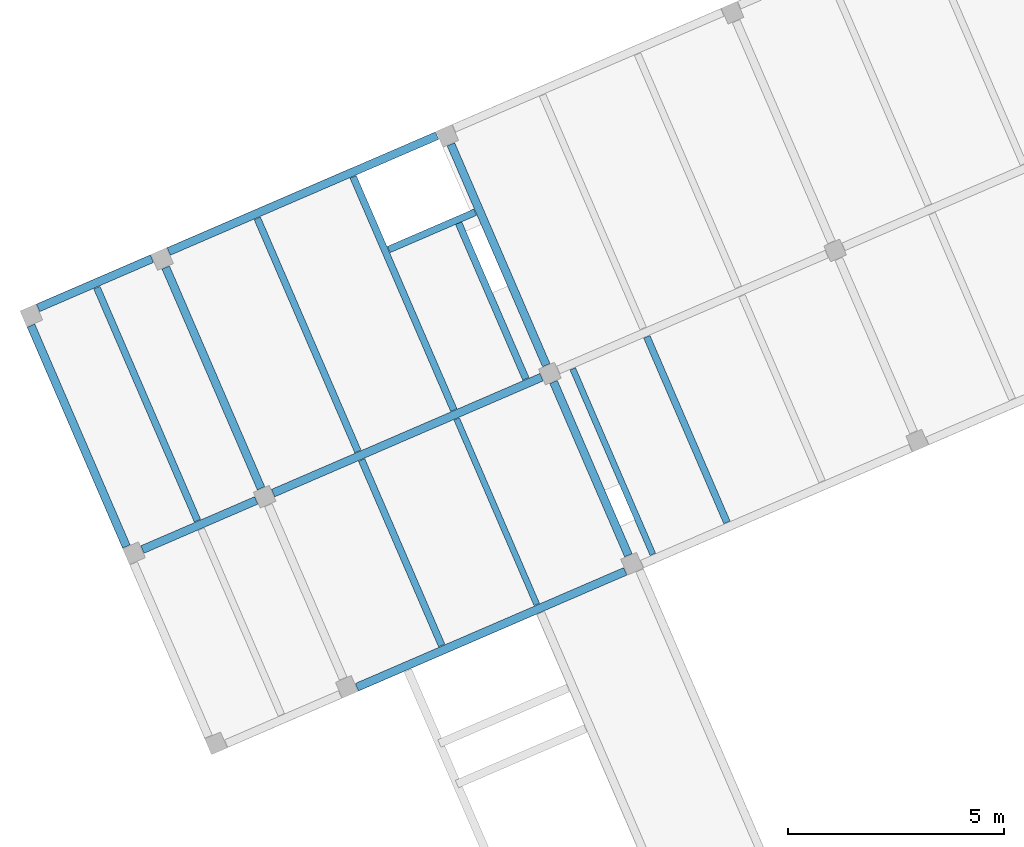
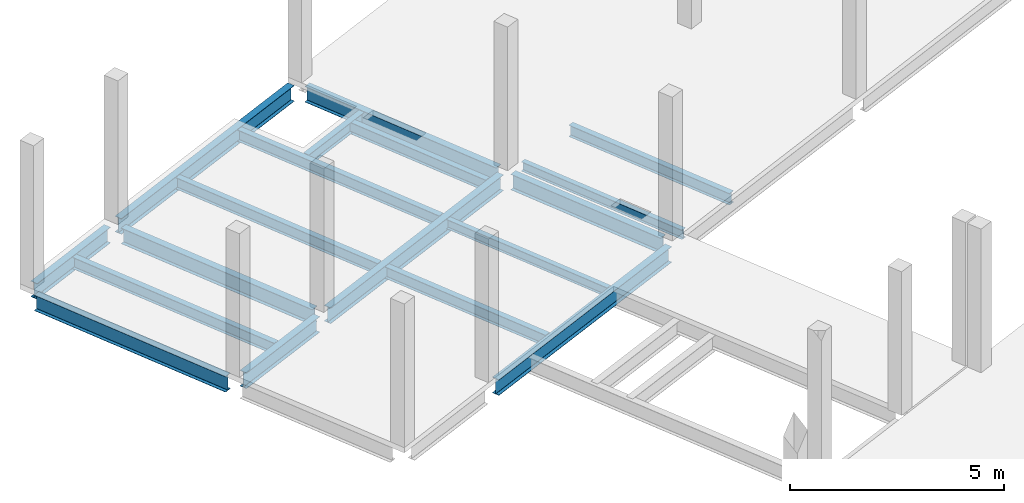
# One storey, part 14 of 24: 18 beams.
"""IFC4 building model written with IfcOpenShell, lengths in metres."""

from ifc_helpers import new_model, entity, si_unit, converted_unit, derived_unit, direction, frame, origin, place, context, subcontext, project, spatial, line, arc, indexed_curve, outline, extrude, source, transform, mapped, material, type_object, type_shapes, element, save


model = new_model("IFC4")

# Units and contexts
model_context = context("Model", 3, precision=1e-05, world=origin(), true_north=direction((6.12323399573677e-17, 1.0)))
body_context = subcontext(model_context, "Body", "Model", "MODEL_VIEW")
ifc_project = project(units=[si_unit("LENGTHUNIT", "METRE"), si_unit("AREAUNIT", "SQUARE_METRE"), si_unit("VOLUMEUNIT", "CUBIC_METRE"), converted_unit("PLANEANGLEUNIT", "DEGREE", entity("IfcPlaneAngleMeasure", 0.0174532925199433), si_unit("PLANEANGLEUNIT", "RADIAN"), dimensions=[0, 0, 0, 0, 0, 0, 0]), si_unit("MASSUNIT", "GRAM", prefix="KILO"), derived_unit("MOMENTOFINERTIAUNIT", [(si_unit("LENGTHUNIT", "METRE"), 4)]), derived_unit("LINEARFORCEUNIT", [(si_unit("MASSUNIT", "GRAM", prefix="KILO"), 1), (si_unit("TIMEUNIT", "SECOND"), -2)]), derived_unit("WARPINGCONSTANTUNIT", [(si_unit("LENGTHUNIT", "METRE"), 6)]), derived_unit("THERMALTRANSMITTANCEUNIT", [(si_unit("MASSUNIT", "GRAM", prefix="KILO"), 1), (si_unit("THERMODYNAMICTEMPERATUREUNIT", "KELVIN"), -1), (si_unit("TIMEUNIT", "SECOND"), -3)]), derived_unit("USERDEFINED", [(si_unit("MASSUNIT", "GRAM", prefix="KILO"), 1), (si_unit("TIMEUNIT", "SECOND"), -2), (si_unit("THERMODYNAMICTEMPERATUREUNIT", "KELVIN"), -1)]), derived_unit("THERMALRESISTANCEUNIT", [(si_unit("MASSUNIT", "GRAM", prefix="KILO"), -1), (si_unit("TIMEUNIT", "SECOND"), 3), (si_unit("THERMODYNAMICTEMPERATUREUNIT", "KELVIN"), 1)])], contexts=[model_context])

# Site, building, storey
site_placement = place(None, origin())
site = spatial("IfcSite", under=ifc_project, at=site_placement, Name="Default", CompositionType="ELEMENT")
building_placement = place(site_placement, frame((12.6613425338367, -82.5732315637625, 317.15), z_axis=(0.0, 0.0, 1.0), x_axis=(-0.396377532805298, 0.918087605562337, 0.0)))
building = spatial("IfcBuilding", under=site, at=building_placement, Name="CESFAM Coyhaique", CompositionType="ELEMENT")
storey_placement = place(building_placement, frame((0.0, 0.0, 4.20000000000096)))
storey = spatial("IfcBuildingStorey", under=building, at=storey_placement, Name="Nivel 2", CompositionType="ELEMENT", Elevation=4.20000000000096)

# Beams
ifc_material = material(Name="Steel, 45-345", Category="Metal")
beam_type_1 = type_object("IfcBeamType", Name="M_W Shapes:W450X190mm", PredefinedType="BEAM", material=ifc_material)
shared_shape_1 = source(origin(), body_context, "Body", "SweptSolid", [
    extrude(outline(indexed_curve([(-0.0949999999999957, -0.225000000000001), (0.0950000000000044, -0.225000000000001), (0.0950000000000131, -0.21535), (0.0105700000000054, -0.21535), (0.00516063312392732, -0.213109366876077), (0.00292000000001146, -0.2077), (0.0029200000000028, 0.207699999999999), (0.00516063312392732, 0.213109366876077), (0.0105700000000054, 0.21535), (0.0950000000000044, 0.21535), (0.0950000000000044, 0.224999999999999), (-0.0949999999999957, 0.224999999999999), (-0.0949999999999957, 0.21535), (-0.0105699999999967, 0.215349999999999), (-0.00516063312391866, 0.213109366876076), (-0.00291999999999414, 0.207699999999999), (-0.00291999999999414, -0.2077), (-0.00516063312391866, -0.213109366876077), (-0.0105699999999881, -0.21535), (-0.0949999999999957, -0.21535)], segments=[line(1, 2, 3, 4), arc(4, 5, 6), line(6, 7), arc(7, 8, 9), line(9, 10, 11, 12, 13, 14), arc(14, 15, 16), line(16, 17), arc(17, 18, 19), line(19, 20, 1)], self_intersect=False)), frame((43.6688534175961, 10.2155504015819, 3.82500000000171), z_axis=(0.0, 1.0, 0.0), x_axis=(-1.0, 0.0, 0.0)), (0.0, 0.0, 1.0), 6.7746),
])
type_shapes(beam_type_1, [shared_shape_1])
beam_1_placement = place(storey_placement, frame((0.0, 0.0, -4.20000000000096)))
element("IfcBeam", 1, at=beam_1_placement, inside=storey, type_object=beam_type_1, Name="M_W Shapes:W450X190mm", ObjectType="M_W Shapes:W450X190mm", PredefinedType="BEAM", context=body_context, shape_type="MappedRepresentation", body=[
    mapped(shared_shape_1, transform((0.0, 0.0, 0.0), scale=1.0)),
])
beam_type_2 = type_object("IfcBeamType", Name="M_W Shapes:W450X190mm", PredefinedType="BEAM", material=ifc_material)
shared_shape_2 = source(origin(), body_context, "Body", "SweptSolid", [
    extrude(outline(indexed_curve([(-0.0950000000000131, -0.225000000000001), (0.0949999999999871, -0.225000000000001), (0.0949999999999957, -0.21535), (0.0105699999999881, -0.21535), (0.00516063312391, -0.213109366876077), (0.00291999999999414, -0.2077), (0.00291999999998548, 0.207699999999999), (0.00516063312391, 0.213109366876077), (0.0105699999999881, 0.21535), (0.0949999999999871, 0.21535), (0.0949999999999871, 0.224999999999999), (-0.0950000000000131, 0.224999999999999), (-0.0950000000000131, 0.21535), (-0.0105700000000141, 0.215349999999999), (-0.00516063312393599, 0.213109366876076), (-0.00292000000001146, 0.207699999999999), (-0.00292000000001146, -0.2077), (-0.00516063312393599, -0.213109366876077), (-0.0105700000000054, -0.21535), (-0.0950000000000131, -0.21535)], segments=[line(1, 2, 3, 4), arc(4, 5, 6), line(6, 7), arc(7, 8, 9), line(9, 10, 11, 12, 13, 14), arc(14, 15, 16), line(16, 17), arc(17, 18, 19), line(19, 20, 1)], self_intersect=False)), frame((48.5688534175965, 10.2155504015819, 3.82500000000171), z_axis=(0.0, 1.0, 0.0), x_axis=(-1.0, 0.0, 0.0)), (0.0, 0.0, 1.0), 6.7746),
])
type_shapes(beam_type_2, [shared_shape_2])
beam_2_placement = place(storey_placement, frame((0.0, 0.0, -4.20000000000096)))
element("IfcBeam", 2, at=beam_2_placement, inside=storey, type_object=beam_type_2, Name="M_W Shapes:W450X190mm", ObjectType="M_W Shapes:W450X190mm", PredefinedType="BEAM", context=body_context, shape_type="MappedRepresentation", body=[
    mapped(shared_shape_2, transform((0.0, 0.0, 0.0), scale=1.0)),
])
beam_type_3 = type_object("IfcBeamType", Name="M_W Shapes:W450X190mm", PredefinedType="BEAM", material=ifc_material)
shared_shape_3 = source(origin(), body_context, "Body", "SweptSolid", [
    extrude(outline(indexed_curve([(-0.0950000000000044, -0.225000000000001), (0.0949999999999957, -0.225000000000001), (0.0950000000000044, -0.21535), (0.0105699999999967, -0.21535), (0.00516063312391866, -0.213109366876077), (0.0029200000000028, -0.2077), (0.00291999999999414, 0.207699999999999), (0.00516063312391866, 0.213109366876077), (0.0105699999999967, 0.21535), (0.0949999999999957, 0.21535), (0.0949999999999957, 0.224999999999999), (-0.0950000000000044, 0.224999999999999), (-0.0950000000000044, 0.21535), (-0.0105700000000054, 0.215349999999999), (-0.00516063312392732, 0.213109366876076), (-0.0029200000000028, 0.207699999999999), (-0.0029200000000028, -0.2077), (-0.00516063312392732, -0.213109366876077), (-0.0105699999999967, -0.21535), (-0.0950000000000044, -0.21535)], segments=[line(1, 2, 3, 4), arc(4, 5, 6), line(6, 7), arc(7, 8, 9), line(9, 10, 11, 12, 13, 14), arc(14, 15, 16), line(16, 17), arc(17, 18, 19), line(19, 20, 1)], self_intersect=False)), frame((54.6688534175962, 10.2155504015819, 3.82500000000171), z_axis=(0.0, 1.0, 0.0), x_axis=(-1.0, 0.0, 0.0)), (0.0, 0.0, 1.0), 6.7746),
])
type_shapes(beam_type_3, [shared_shape_3])
beam_3_placement = place(storey_placement, frame((0.0, 0.0, -4.20000000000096)))
element("IfcBeam", 3, at=beam_3_placement, inside=storey, type_object=beam_type_3, Name="M_W Shapes:W450X190mm", ObjectType="M_W Shapes:W450X190mm", PredefinedType="BEAM", context=body_context, shape_type="MappedRepresentation", body=[
    mapped(shared_shape_3, transform((0.0, 0.0, 0.0), scale=1.0)),
])
beam_type_4 = type_object("IfcBeamType", Name="M_W Shapes:W450X190mm", PredefinedType="BEAM", material=ifc_material)
shared_shape_4 = source(origin(), body_context, "Body", "SweptSolid", [
    extrude(outline(indexed_curve([(-0.225, -0.0950000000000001), (-0.215350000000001, -0.0949999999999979), (-0.21535, -0.0105699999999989), (-0.213109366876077, -0.00516063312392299), (-0.2077, -0.00291999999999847), (0.207699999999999, -0.00291999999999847), (0.213109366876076, -0.00516063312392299), (0.215349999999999, -0.0105699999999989), (0.215349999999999, -0.0950000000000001), (0.225, -0.0950000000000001), (0.225, 0.0950000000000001), (0.215349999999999, 0.0950000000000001), (0.215349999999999, 0.0105700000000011), (0.213109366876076, 0.00516063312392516), (0.207699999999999, 0.00292000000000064), (-0.2077, 0.00292000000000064), (-0.213109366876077, 0.00516063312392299), (-0.215350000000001, 0.0105700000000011), (-0.215350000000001, 0.0950000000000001), (-0.225, 0.0950000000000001)], segments=[line(1, 2, 3), arc(3, 4, 5), line(5, 6), arc(6, 7, 8), line(8, 9, 10, 11, 12, 13), arc(13, 14, 15), line(15, 16), arc(16, 17, 18), line(18, 19, 20, 1)], self_intersect=False)), frame((43.9815534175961, 10.0028504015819, 3.82500000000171), z_axis=(1.0, 0.0, 0.0), x_axis=(0.0, 0.0, -1.0)), (0.0, 0.0, 1.0), 4.3746),
])
type_shapes(beam_type_4, [shared_shape_4])
beam_4_placement = place(storey_placement, frame((0.0, 0.0, -4.20000000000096)))
element("IfcBeam", 4, at=beam_4_placement, inside=storey, type_object=beam_type_4, Name="M_W Shapes:W450X190mm", ObjectType="M_W Shapes:W450X190mm", PredefinedType="BEAM", context=body_context, shape_type="MappedRepresentation", body=[
    mapped(shared_shape_4, transform((0.0, 0.0, 0.0), scale=1.0)),
])
beam_type_5 = type_object("IfcBeamType", Name="M_W Shapes:W450X190mm", PredefinedType="BEAM", material=ifc_material)
shared_shape_5 = source(origin(), body_context, "Body", "SweptSolid", [
    extrude(outline(indexed_curve([(-0.225, -0.0950000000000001), (-0.215350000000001, -0.0950000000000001), (-0.21535, -0.0105699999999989), (-0.213109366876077, -0.00516063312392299), (-0.2077, -0.00291999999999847), (0.207699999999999, -0.00291999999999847), (0.213109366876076, -0.00516063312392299), (0.215349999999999, -0.0105699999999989), (0.215349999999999, -0.0950000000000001), (0.225, -0.0950000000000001), (0.225, 0.0950000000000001), (0.215349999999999, 0.0950000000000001), (0.215349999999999, 0.0105700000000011), (0.213109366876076, 0.00516063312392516), (0.207699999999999, 0.00292000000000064), (-0.2077, 0.00292000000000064), (-0.213109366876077, 0.00516063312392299), (-0.215350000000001, 0.0105700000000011), (-0.215350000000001, 0.0950000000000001), (-0.225, 0.0950000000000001)], segments=[line(1, 2, 3), arc(3, 4, 5), line(5, 6), arc(6, 7, 8), line(8, 9, 10, 11, 12, 13), arc(13, 14, 15), line(15, 16), arc(16, 17, 18), line(18, 19, 20, 1)], self_intersect=False)), frame((48.7815534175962, 10.0028504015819, 3.82500000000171), z_axis=(1.0, 0.0, 0.0), x_axis=(0.0, 0.0, -1.0)), (0.0, 0.0, 1.0), 5.5746),
])
type_shapes(beam_type_5, [shared_shape_5])
beam_5_placement = place(storey_placement, frame((0.0, 0.0, -4.20000000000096)))
element("IfcBeam", 5, at=beam_5_placement, inside=storey, type_object=beam_type_5, Name="M_W Shapes:W450X190mm", ObjectType="M_W Shapes:W450X190mm", PredefinedType="BEAM", context=body_context, shape_type="MappedRepresentation", body=[
    mapped(shared_shape_5, transform((0.0, 0.0, 0.0), scale=1.0)),
])
beam_type_6 = type_object("IfcBeamType", Name="M_W Shapes:W450X190mm", PredefinedType="BEAM", material=ifc_material)
shared_shape_6 = source(origin(), body_context, "Body", "SweptSolid", [
    extrude(outline(indexed_curve([(-0.225, -0.0950000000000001), (-0.215350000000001, -0.0950000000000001), (-0.21535, -0.0105699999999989), (-0.213109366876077, -0.00516063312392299), (-0.2077, -0.00291999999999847), (0.207699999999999, -0.00291999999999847), (0.213109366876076, -0.00516063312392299), (0.215349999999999, -0.0105699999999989), (0.215349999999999, -0.0950000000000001), (0.225, -0.0950000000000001), (0.225, 0.0950000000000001), (0.215349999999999, 0.0950000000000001), (0.215349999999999, 0.0105700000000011), (0.213109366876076, 0.00516063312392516), (0.207699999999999, 0.00292000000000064), (-0.2077, 0.00292000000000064), (-0.213109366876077, 0.00516063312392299), (-0.215350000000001, 0.0105700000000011), (-0.215350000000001, 0.0950000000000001), (-0.225, 0.0950000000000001)], segments=[line(1, 2, 3), arc(3, 4, 5), line(5, 6), arc(6, 7, 8), line(8, 9, 10, 11, 12, 13), arc(13, 14, 15), line(15, 16), arc(16, 17, 18), line(18, 19, 20, 1)], self_intersect=False)), frame((48.7815534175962, 17.2028504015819, 3.82500000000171), z_axis=(1.0, 0.0, 0.0), x_axis=(0.0, 0.0, -1.0)), (0.0, 0.0, 1.0), 5.5746),
])
type_shapes(beam_type_6, [shared_shape_6])
beam_6_placement = place(storey_placement, frame((0.0, 0.0, -4.20000000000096)))
element("IfcBeam", 6, at=beam_6_placement, inside=storey, type_object=beam_type_6, Name="M_W Shapes:W450X190mm", ObjectType="M_W Shapes:W450X190mm", PredefinedType="BEAM", context=body_context, shape_type="MappedRepresentation", body=[
    mapped(shared_shape_6, transform((0.0, 0.0, 0.0), scale=1.0)),
])
beam_type_7 = type_object("IfcBeamType", Name="M_W Shapes:W450X190mm", PredefinedType="BEAM", material=ifc_material)
shared_shape_7 = source(origin(), body_context, "Body", "SweptSolid", [
    extrude(outline(indexed_curve([(-0.0949999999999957, -0.225000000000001), (0.0950000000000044, -0.225000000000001), (0.0950000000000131, -0.21535), (0.0105700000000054, -0.21535), (0.00516063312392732, -0.213109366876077), (0.00292000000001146, -0.2077), (0.0029200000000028, 0.207699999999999), (0.00516063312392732, 0.213109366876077), (0.0105700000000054, 0.21535), (0.0950000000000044, 0.21535), (0.0950000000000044, 0.224999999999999), (-0.0949999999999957, 0.224999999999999), (-0.0949999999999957, 0.21535), (-0.0105699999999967, 0.215349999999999), (-0.00516063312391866, 0.213109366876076), (-0.00291999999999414, 0.207699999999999), (-0.00291999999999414, -0.2077), (-0.00516063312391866, -0.213109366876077), (-0.0105699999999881, -0.21535), (-0.0949999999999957, -0.21535)], segments=[line(1, 2, 3, 4), arc(4, 5, 6), line(6, 7), arc(7, 8, 9), line(9, 10, 11, 12, 13, 14), arc(14, 15, 16), line(16, 17), arc(17, 18, 19), line(19, 20, 1)], self_intersect=False)), frame((48.5688534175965, 17.4156003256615, 3.82500000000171), z_axis=(0.0, 1.0, 0.0), x_axis=(-1.0, 0.0, 0.0)), (0.0, 0.0, 1.0), 2.8745),
])
type_shapes(beam_type_7, [shared_shape_7])
beam_7_placement = place(storey_placement, frame((0.0, 0.0, -4.20000000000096)))
element("IfcBeam", 7, at=beam_7_placement, inside=storey, type_object=beam_type_7, Name="M_W Shapes:W450X190mm", ObjectType="M_W Shapes:W450X190mm", PredefinedType="BEAM", context=body_context, shape_type="MappedRepresentation", body=[
    mapped(shared_shape_7, transform((0.0, 0.0, 0.0), scale=1.0)),
])
beam_type_8 = type_object("IfcBeamType", Name="M_W Shapes:W450X190mm", PredefinedType="BEAM", material=ifc_material)
shared_shape_8 = source(origin(), body_context, "Body", "SweptSolid", [
    extrude(outline(indexed_curve([(-0.0950000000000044, -0.225000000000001), (0.0949999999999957, -0.225000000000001), (0.0950000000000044, -0.21535), (0.0105699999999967, -0.21535), (0.00516063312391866, -0.213109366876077), (0.0029200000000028, -0.2077), (0.00291999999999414, 0.207699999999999), (0.00516063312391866, 0.213109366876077), (0.0105699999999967, 0.21535), (0.0949999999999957, 0.21535), (0.0949999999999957, 0.224999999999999), (-0.0950000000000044, 0.224999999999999), (-0.0950000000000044, 0.21535), (-0.0105700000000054, 0.215349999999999), (-0.00516063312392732, 0.213109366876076), (-0.0029200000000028, 0.207699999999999), (-0.0029200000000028, -0.2077), (-0.00516063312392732, -0.213109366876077), (-0.0105699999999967, -0.21535), (-0.0950000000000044, -0.21535)], segments=[line(1, 2, 3, 4), arc(4, 5, 6), line(6, 7), arc(7, 8, 9), line(9, 10, 11, 12, 13, 14), arc(14, 15, 16), line(16, 17), arc(17, 18, 19), line(19, 20, 1)], self_intersect=False)), frame((54.6688534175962, 17.4156003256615, 3.82500000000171), z_axis=(0.0, 1.0, 0.0), x_axis=(-1.0, 0.0, 0.0)), (0.0, 0.0, 1.0), 2.8745),
])
type_shapes(beam_type_8, [shared_shape_8])
beam_8_placement = place(storey_placement, frame((0.0, 0.0, -4.20000000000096)))
element("IfcBeam", 8, at=beam_8_placement, inside=storey, type_object=beam_type_8, Name="M_W Shapes:W450X190mm", ObjectType="M_W Shapes:W450X190mm", PredefinedType="BEAM", context=body_context, shape_type="MappedRepresentation", body=[
    mapped(shared_shape_8, transform((0.0, 0.0, 0.0), scale=1.0)),
])
beam_type_9 = type_object("IfcBeamType", Name="M_W Shapes:W450X190mm", PredefinedType="BEAM", material=ifc_material)
shared_shape_9 = source(origin(), body_context, "Body", "SweptSolid", [
    extrude(outline(indexed_curve([(-0.225, -0.0950000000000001), (-0.215350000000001, -0.0950000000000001), (-0.21535, -0.0105700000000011), (-0.213109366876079, -0.00516063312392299), (-0.2077, -0.0029200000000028), (0.207699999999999, -0.0029200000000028), (0.213109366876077, -0.00516063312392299), (0.215349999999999, -0.0105700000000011), (0.215349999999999, -0.0950000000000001), (0.225, -0.0950000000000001), (0.225, 0.0950000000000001), (0.215349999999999, 0.0950000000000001), (0.215349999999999, 0.0105699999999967), (0.213109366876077, 0.00516063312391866), (0.207699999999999, 0.00291999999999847), (-0.2077, 0.00291999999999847), (-0.213109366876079, 0.00516063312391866), (-0.215350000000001, 0.0105699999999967), (-0.215350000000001, 0.0950000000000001), (-0.225, 0.0950000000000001)], segments=[line(1, 2, 3), arc(3, 4, 5), line(5, 6), arc(6, 7, 8), line(8, 9, 10, 11, 12, 13), arc(13, 14, 15), line(15, 16), arc(16, 17, 18), line(18, 19, 20, 1)], self_intersect=False)), frame((48.7815534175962, 20.6028502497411, 3.82500000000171), z_axis=(1.0, 0.0, 0.0), x_axis=(0.0, 0.0, -1.0)), (0.0, 0.0, 1.0), 5.5746),
])
type_shapes(beam_type_9, [shared_shape_9])
beam_9_placement = place(storey_placement, frame((0.0, 0.0, -4.20000000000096)))
element("IfcBeam", 9, at=beam_9_placement, inside=storey, type_object=beam_type_9, Name="M_W Shapes:W450X190mm", ObjectType="M_W Shapes:W450X190mm", PredefinedType="BEAM", context=body_context, shape_type="MappedRepresentation", body=[
    mapped(shared_shape_9, transform((0.0, 0.0, 0.0), scale=1.0)),
])
beam_type_10 = type_object("IfcBeamType", Name="M_W Shapes:W330X160mm", PredefinedType="BEAM", material=ifc_material)
shared_shape_10 = source(origin(), body_context, "Body", "SweptSolid", [
    extrude(outline(indexed_curve([(-0.164999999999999, -0.0799999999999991), (-0.15535, -0.0799999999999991), (-0.15535, -0.0105699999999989), (-0.153109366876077, -0.00516063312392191), (-0.1477, -0.00291999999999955), (0.1477, -0.00291999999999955), (0.153109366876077, -0.00516063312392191), (0.15535, -0.0105699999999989), (0.15535, -0.0799999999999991), (0.165, -0.0799999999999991), (0.165000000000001, 0.0800000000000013), (0.15535, 0.0800000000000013), (0.15535, 0.0105700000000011), (0.153109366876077, 0.00516063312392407), (0.1477, 0.00292000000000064), (-0.1477, 0.00292000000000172), (-0.153109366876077, 0.00516063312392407), (-0.15535, 0.01057), (-0.15535, 0.0800000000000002), (-0.164999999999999, 0.0800000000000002)], segments=[line(1, 2, 3), arc(3, 4, 5), line(5, 6), arc(6, 7, 8), line(8, 9, 10, 11, 12, 13), arc(13, 14, 15), line(15, 16), arc(16, 17, 18), line(18, 19, 20, 1)], self_intersect=False)), frame((43.7765534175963, 7.6028504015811, 3.88500000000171), z_axis=(1.0, 0.0, 0.0), x_axis=(0.0, 0.0, -1.0)), (0.0, 0.0, 1.0), 4.6846),
])
type_shapes(beam_type_10, [shared_shape_10])
beam_10_placement = place(storey_placement, frame((0.0, 0.0, -4.20000000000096)))
element("IfcBeam", 10, at=beam_10_placement, inside=storey, type_object=beam_type_10, Name="M_W Shapes:W330X160mm", ObjectType="M_W Shapes:W330X160mm", PredefinedType="BEAM", context=body_context, shape_type="MappedRepresentation", body=[
    mapped(shared_shape_10, transform((0.0, 0.0, 0.0), scale=1.0)),
])
beam_type_11 = type_object("IfcBeamType", Name="M_W Shapes:W330X160mm", PredefinedType="BEAM", material=ifc_material)
shared_shape_11 = source(origin(), body_context, "Body", "SweptSolid", [
    extrude(outline(indexed_curve([(-0.164999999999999, -0.079999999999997), (-0.15535, -0.079999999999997), (-0.15535, -0.0105699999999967), (-0.153109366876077, -0.00516063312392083), (-0.1477, -0.0029199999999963), (0.1477, -0.0029199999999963), (0.153109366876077, -0.00516063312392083), (0.15535, -0.0105699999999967), (0.15535, -0.079999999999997), (0.165, -0.079999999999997), (0.165, 0.0800000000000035), (0.15535, 0.0800000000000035), (0.15535, 0.0105700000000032), (0.153109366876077, 0.00516063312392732), (0.1477, 0.0029200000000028), (-0.1477, 0.0029200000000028), (-0.153109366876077, 0.00516063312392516), (-0.15535, 0.0105700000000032), (-0.15535, 0.0800000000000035), (-0.164999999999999, 0.0800000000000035)], segments=[line(1, 2, 3), arc(3, 4, 5), line(5, 6), arc(6, 7, 8), line(8, 9, 10, 11, 12, 13), arc(13, 14, 15), line(15, 16), arc(16, 17, 18), line(18, 19, 20, 1)], self_intersect=False)), frame((48.6765534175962, 12.3828504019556, 3.88500000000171), z_axis=(1.0, 0.0, 0.0), x_axis=(0.0, 0.0, -1.0)), (0.0, 0.0, 1.0), 5.88460000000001),
])
type_shapes(beam_type_11, [shared_shape_11])
beam_11_placement = place(storey_placement, frame((0.0, 0.0, -4.20000000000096)))
element("IfcBeam", 11, at=beam_11_placement, inside=storey, type_object=beam_type_11, Name="M_W Shapes:W330X160mm", ObjectType="M_W Shapes:W330X160mm", PredefinedType="BEAM", context=body_context, shape_type="MappedRepresentation", body=[
    mapped(shared_shape_11, transform((0.0, 0.0, 0.0), scale=1.0)),
])
beam_type_12 = type_object("IfcBeamType", Name="M_W Shapes:W270X140mm", PredefinedType="BEAM", material=ifc_material)
shared_shape_12 = source(origin(), body_context, "Body", "SweptSolid", [
    extrude(outline(indexed_curve([(-0.135, -0.0700000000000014), (-0.125350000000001, -0.0700000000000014), (-0.125350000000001, -0.0105700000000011), (-0.123109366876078, -0.00516063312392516), (-0.1177, -0.00292000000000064), (0.117699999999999, -0.00292000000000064), (0.123109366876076, -0.00516063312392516), (0.125349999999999, -0.0105700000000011), (0.125349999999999, -0.0700000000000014), (0.135, -0.0700000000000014), (0.135, 0.0699999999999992), (0.125349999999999, 0.0699999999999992), (0.125349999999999, 0.0105699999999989), (0.123109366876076, 0.00516063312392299), (0.117699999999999, 0.00291999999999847), (-0.117700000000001, 0.00291999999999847), (-0.123109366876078, 0.00516063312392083), (-0.125350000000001, 0.0105699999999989), (-0.125350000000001, 0.0699999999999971), (-0.135, 0.0699999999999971)], segments=[line(1, 2, 3), arc(3, 4, 5), line(5, 6), arc(6, 7, 8), line(8, 9, 10, 11, 12, 13), arc(13, 14, 15), line(15, 16), arc(16, 17, 18), line(18, 19, 20, 1)], self_intersect=False)), frame((43.7765534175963, 12.4029173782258, 3.91500000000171), z_axis=(1.0, 0.0, 0.0), x_axis=(0.0, 0.0, -1.0)), (0.0, 0.0, 1.0), 4.68460000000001),
])
type_shapes(beam_type_12, [shared_shape_12])
beam_12_placement = place(storey_placement, frame((0.0, 0.0, -4.20000000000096)))
element("IfcBeam", 12, at=beam_12_placement, inside=storey, type_object=beam_type_12, Name="M_W Shapes:W270X140mm", ObjectType="M_W Shapes:W270X140mm", PredefinedType="BEAM", context=body_context, shape_type="MappedRepresentation", body=[
    mapped(shared_shape_12, transform((0.0, 0.0, 0.0), scale=1.0)),
])
beam_type_13 = type_object("IfcBeamType", Name="M_W Shapes:W330X160mm", PredefinedType="BEAM", material=ifc_material)
shared_shape_13 = source(origin(), body_context, "Body", "SweptSolid", [
    extrude(outline(indexed_curve([(-0.164999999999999, -0.0799999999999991), (-0.15535, -0.0799999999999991), (-0.15535, -0.0105699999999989), (-0.153109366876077, -0.00516063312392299), (-0.1477, -0.00291999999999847), (0.1477, -0.00291999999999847), (0.153109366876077, -0.00516063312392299), (0.15535, -0.0105699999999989), (0.15535, -0.0799999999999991), (0.165, -0.0799999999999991), (0.165, 0.0800000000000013), (0.15535, 0.0800000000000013), (0.15535, 0.0105700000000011), (0.153109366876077, 0.00516063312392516), (0.1477, 0.00292000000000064), (-0.1477, 0.00292000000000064), (-0.153109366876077, 0.00516063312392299), (-0.15535, 0.0105700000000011), (-0.15535, 0.0800000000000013), (-0.164999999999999, 0.0800000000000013)], segments=[line(1, 2, 3), arc(3, 4, 5), line(5, 6), arc(6, 7, 8), line(8, 9, 10, 11, 12, 13), arc(13, 14, 15), line(15, 16), arc(16, 17, 18), line(18, 19, 20, 1)], self_intersect=False)), frame((48.6765534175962, 14.8028504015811, 3.88500000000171), z_axis=(1.0, 0.0, 0.0), x_axis=(0.0, 0.0, -1.0)), (0.0, 0.0, 1.0), 5.88460000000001),
])
type_shapes(beam_type_13, [shared_shape_13])
beam_13_placement = place(storey_placement, frame((0.0, 0.0, -4.20000000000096)))
element("IfcBeam", 13, at=beam_13_placement, inside=storey, type_object=beam_type_13, Name="M_W Shapes:W330X160mm", ObjectType="M_W Shapes:W330X160mm", PredefinedType="BEAM", context=body_context, shape_type="MappedRepresentation", body=[
    mapped(shared_shape_13, transform((0.0, 0.0, 0.0), scale=1.0)),
])
beam_type_14 = type_object("IfcBeamType", Name="M_W Shapes:W330X160mm", PredefinedType="BEAM", material=ifc_material)
shared_shape_14 = source(origin(), body_context, "Body", "SweptSolid", [
    extrude(outline(indexed_curve([(-0.164999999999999, -0.0799999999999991), (-0.15535, -0.0799999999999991), (-0.15535, -0.0105699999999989), (-0.153109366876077, -0.00516063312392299), (-0.1477, -0.00291999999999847), (0.1477, -0.00291999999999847), (0.153109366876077, -0.00516063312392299), (0.15535, -0.0105700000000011), (0.15535, -0.0799999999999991), (0.165, -0.0799999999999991), (0.165000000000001, 0.0800000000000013), (0.15535, 0.0799999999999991), (0.15535, 0.0105700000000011), (0.153109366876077, 0.00516063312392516), (0.1477, 0.00292000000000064), (-0.1477, 0.00292000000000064), (-0.153109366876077, 0.00516063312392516), (-0.15535, 0.0105700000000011), (-0.15535, 0.0800000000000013), (-0.164999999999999, 0.0799999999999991)], segments=[line(1, 2, 3), arc(3, 4, 5), line(5, 6), arc(6, 7, 8), line(8, 9, 10, 11, 12, 13), arc(13, 14, 15), line(15, 16), arc(16, 17, 18), line(18, 19, 20, 1)], self_intersect=False)), frame((43.7765534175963, 14.8028504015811, 3.88500000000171), z_axis=(1.0, 0.0, 0.0), x_axis=(0.0, 0.0, -1.0)), (0.0, 0.0, 1.0), 4.6846),
])
type_shapes(beam_type_14, [shared_shape_14])
beam_14_placement = place(storey_placement, frame((0.0, 0.0, -4.20000000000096)))
element("IfcBeam", 14, at=beam_14_placement, inside=storey, type_object=beam_type_14, Name="M_W Shapes:W330X160mm", ObjectType="M_W Shapes:W330X160mm", PredefinedType="BEAM", context=body_context, shape_type="MappedRepresentation", body=[
    mapped(shared_shape_14, transform((0.0, 0.0, 0.0), scale=1.0)),
])
beam_type_15 = type_object("IfcBeamType", Name="M_W Shapes:W330X160mm", PredefinedType="BEAM", material=ifc_material)
shared_shape_15 = source(origin(), body_context, "Body", "SweptSolid", [
    extrude(outline(indexed_curve([(-0.164999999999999, -0.0800000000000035), (-0.15535, -0.0800000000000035), (-0.15535, -0.0105700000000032), (-0.153109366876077, -0.00516063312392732), (-0.1477, -0.0029200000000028), (0.1477, -0.0029200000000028), (0.153109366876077, -0.00516063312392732), (0.15535, -0.0105700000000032), (0.15535, -0.0800000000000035), (0.165, -0.0800000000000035), (0.165, 0.079999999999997), (0.15535, 0.079999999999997), (0.15535, 0.0105699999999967), (0.153109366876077, 0.00516063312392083), (0.1477, 0.0029199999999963), (-0.1477, 0.0029199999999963), (-0.153109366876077, 0.00516063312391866), (-0.15535, 0.0105699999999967), (-0.15535, 0.079999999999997), (-0.164999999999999, 0.079999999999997)], segments=[line(1, 2, 3), arc(3, 4, 5), line(5, 6), arc(6, 7, 8), line(8, 9, 10, 11, 12, 13), arc(13, 14, 15), line(15, 16), arc(16, 17, 18), line(18, 19, 20, 1)], self_intersect=False)), frame((48.6765534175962, 18.8528503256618, 3.88500000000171), z_axis=(1.0, 0.0, 0.0), x_axis=(0.0, 0.0, -1.0)), (0.0, 0.0, 1.0), 5.88460000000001),
])
type_shapes(beam_type_15, [shared_shape_15])
beam_15_placement = place(storey_placement, frame((0.0, 0.0, -4.20000000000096)))
element("IfcBeam", 15, at=beam_15_placement, inside=storey, type_object=beam_type_15, Name="M_W Shapes:W330X160mm", ObjectType="M_W Shapes:W330X160mm", PredefinedType="BEAM", context=body_context, shape_type="MappedRepresentation", body=[
    mapped(shared_shape_15, transform((0.0, 0.0, 0.0), scale=1.0)),
])
beam_type_16 = type_object("IfcBeamType", Name="M_W Shapes:W270X140mm", PredefinedType="BEAM", material=ifc_material)
shared_shape_16 = source(origin(), body_context, "Body", "SweptSolid", [
    extrude(outline(indexed_curve([(-0.135, -0.0699999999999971), (-0.125350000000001, -0.0699999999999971), (-0.125350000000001, -0.0105699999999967), (-0.123109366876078, -0.00516063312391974), (-0.1177, -0.00291999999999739), (0.117699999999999, -0.00291999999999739), (0.123109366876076, -0.00516063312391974), (0.125349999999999, -0.0105699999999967), (0.125349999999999, -0.0699999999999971), (0.135, -0.0699999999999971), (0.135, 0.0700000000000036), (0.125349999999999, 0.0700000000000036), (0.12535, 0.0105700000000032), (0.123109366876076, 0.00516063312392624), (0.117699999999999, 0.0029200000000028), (-0.117700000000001, 0.0029200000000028), (-0.123109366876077, 0.00516063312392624), (-0.125350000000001, 0.0105700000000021), (-0.125350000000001, 0.0700000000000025), (-0.135, 0.0700000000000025)], segments=[line(1, 2, 3), arc(3, 4, 5), line(5, 6), arc(6, 7, 8), line(8, 9, 10, 11, 12, 13), arc(13, 14, 15), line(15, 16), arc(16, 17, 18), line(18, 19, 20, 1)], self_intersect=False)), frame((43.7765534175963, 9.47285040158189, 3.91500000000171), z_axis=(1.0, 0.0, 0.0), x_axis=(0.0, 0.0, -1.0)), (0.0, 0.0, 1.0), 4.6846),
])
type_shapes(beam_type_16, [shared_shape_16])
beam_16_placement = place(storey_placement, frame((0.0, 0.0, -4.20000000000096)))
element("IfcBeam", 16, at=beam_16_placement, inside=storey, type_object=beam_type_16, Name="M_W Shapes:W270X140mm", ObjectType="M_W Shapes:W270X140mm", PredefinedType="BEAM", context=body_context, shape_type="MappedRepresentation", body=[
    mapped(shared_shape_16, transform((0.0, 0.0, 0.0), scale=1.0)),
])
beam_type_17 = type_object("IfcBeamType", Name="M_W Shapes:W330X160mm", PredefinedType="BEAM", material=ifc_material)
shared_shape_17 = source(origin(), body_context, "Body", "SweptSolid", [
    extrude(outline(indexed_curve([(-0.164999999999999, -0.0799999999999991), (-0.15535, -0.0799999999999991), (-0.15535, -0.0105699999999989), (-0.153109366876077, -0.00516063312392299), (-0.1477, -0.00291999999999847), (0.1477, -0.00291999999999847), (0.153109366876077, -0.00516063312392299), (0.15535, -0.0105699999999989), (0.15535, -0.0799999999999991), (0.165, -0.0799999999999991), (0.165, 0.0800000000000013), (0.15535, 0.0800000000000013), (0.15535, 0.0105700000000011), (0.153109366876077, 0.00516063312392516), (0.1477, 0.00292000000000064), (-0.1477, 0.00292000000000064), (-0.153109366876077, 0.00516063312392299), (-0.15535, 0.0105700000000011), (-0.15535, 0.0800000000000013), (-0.164999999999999, 0.0800000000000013)], segments=[line(1, 2, 3), arc(3, 4, 5), line(5, 6), arc(6, 7, 8), line(8, 9, 10, 11, 12, 13), arc(13, 14, 15), line(15, 16), arc(16, 17, 18), line(18, 19, 20, 1)], self_intersect=False)), frame((48.6765534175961, 10.5628508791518, 3.88500000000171), z_axis=(1.0, 0.0, 0.0), x_axis=(0.0, 0.0, -1.0)), (0.0, 0.0, 1.0), 4.0123),
])
type_shapes(beam_type_17, [shared_shape_17])
beam_17_placement = place(storey_placement, frame((0.0, 0.0, -4.20000000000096)))
element("IfcBeam", 17, at=beam_17_placement, inside=storey, type_object=beam_type_17, Name="M_W Shapes:W330X160mm", ObjectType="M_W Shapes:W330X160mm", PredefinedType="BEAM", context=body_context, shape_type="MappedRepresentation", body=[
    mapped(shared_shape_17, transform((0.0, 0.0, 0.0), scale=1.0)),
])
beam_type_18 = type_object("IfcBeamType", Name="M_W Shapes:W330X160mm", PredefinedType="BEAM", material=ifc_material)
shared_shape_18 = source(origin(), body_context, "Body", "SweptSolid", [
    extrude(outline(indexed_curve([(-0.0799999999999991, -0.165), (0.0799999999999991, -0.165), (0.0799999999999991, -0.15535), (0.0105699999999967, -0.15535), (0.00516063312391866, -0.153109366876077), (0.0029200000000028, -0.1477), (0.00291999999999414, 0.1477), (0.00516063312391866, 0.153109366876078), (0.0105699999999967, 0.15535), (0.0799999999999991, 0.15535), (0.0799999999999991, 0.164999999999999), (-0.0799999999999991, 0.164999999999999), (-0.0799999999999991, 0.15535), (-0.0105700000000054, 0.15535), (-0.00516063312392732, 0.153109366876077), (-0.0029200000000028, 0.1477), (-0.0029200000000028, -0.1477), (-0.00516063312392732, -0.153109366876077), (-0.0105700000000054, -0.15535), (-0.0799999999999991, -0.15535)], segments=[line(1, 2, 3, 4), arc(4, 5, 6), line(6, 7), arc(7, 8, 9), line(9, 10, 11, 12, 13, 14), arc(14, 15, 16), line(16, 17), arc(17, 18, 19), line(19, 20, 1)], self_intersect=False)), frame((52.688853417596, 10.1105504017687, 3.88500000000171), z_axis=(0.0, 1.0, 0.0), x_axis=(-1.0, 0.0, 0.0)), (0.0, 0.0, 1.0), 2.1796),
])
type_shapes(beam_type_18, [shared_shape_18])
beam_18_placement = place(storey_placement, frame((0.0, 0.0, -4.20000000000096)))
element("IfcBeam", 18, at=beam_18_placement, inside=storey, type_object=beam_type_18, Name="M_W Shapes:W330X160mm", ObjectType="M_W Shapes:W330X160mm", PredefinedType="BEAM", context=body_context, shape_type="MappedRepresentation", body=[
    mapped(shared_shape_18, transform((0.0, 0.0, 0.0), scale=1.0)),
])

save(model, "model.ifc")
